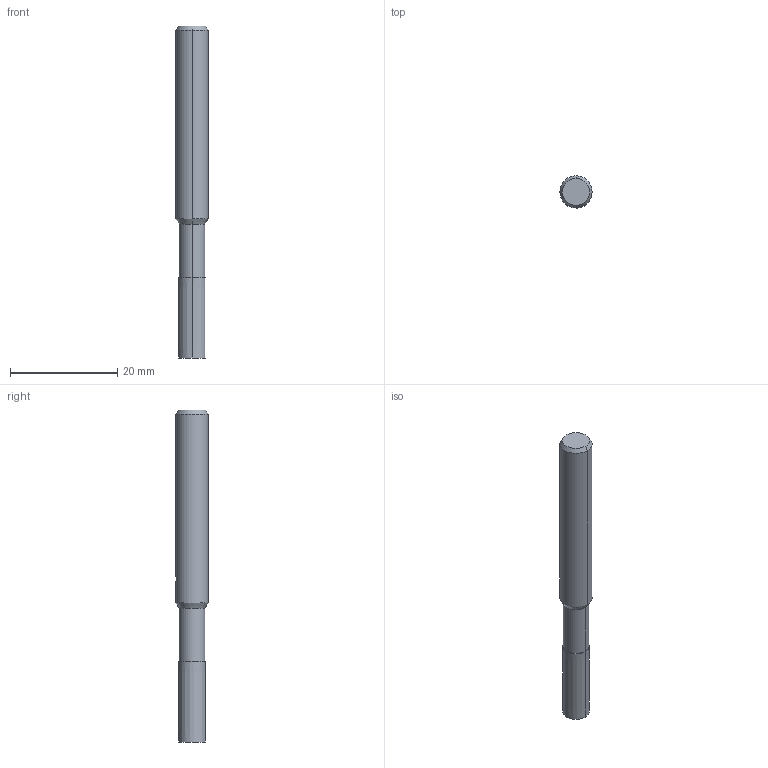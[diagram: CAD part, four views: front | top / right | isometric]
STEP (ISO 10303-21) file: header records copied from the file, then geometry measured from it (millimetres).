
FILE_DESCRIPTION(('no description'),'unknown implementation level');
FILE_NAME('solidOaOrfjzUNIbJF0GuUCn0rtQVC34_1.STP',' ',('CIMSOURCE GmbH'),('CADClick - KiM GmbH - www.kimweb.de'),'unknown preprocess','ACIS','unknown authorization');
FILE_SCHEMA(('automotive_design'));
Length unit declared in the file: millimetre
Products named in the file (2): NOCUT; CUT
Bounding box: 6 x 6 x 62 mm (x, y, z)
Volume: 1513 mm3; surface area: 1402.3 mm2
Topology: 2 solids, 2 shells, 41 faces, 93 edges, 58 vertices
Faces by surface type: cylinder 16, cone 14, plane 11
Entity records: 2488 total; most frequent: CARTESIAN_POINT 414, DIRECTION 211, STYLED_ITEM 194, PRESENTATION_STYLE_ASSIGNMENT 194, COLOUR_RGB 194, ORIENTED_EDGE 186, EDGE_CURVE 93, CURVE_STYLE 93
